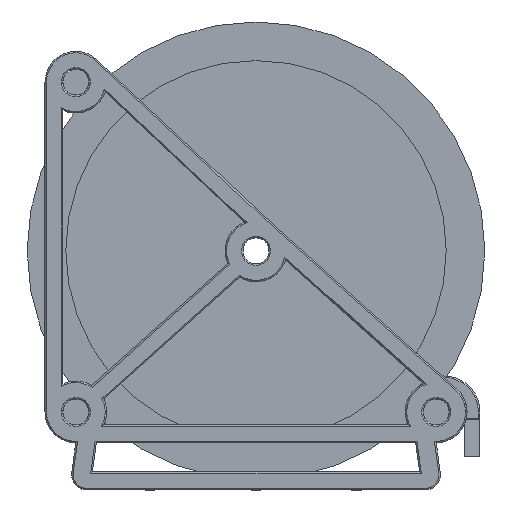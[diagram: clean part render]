
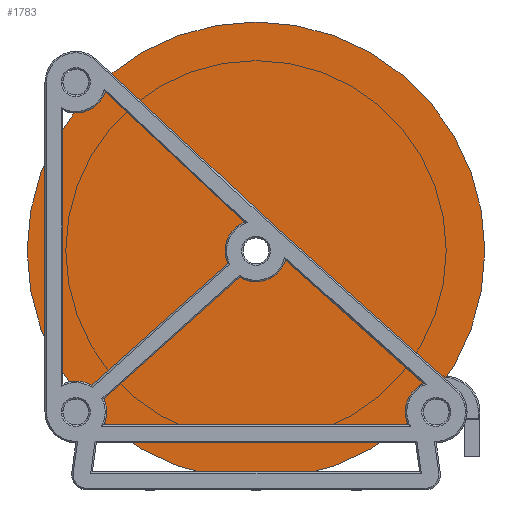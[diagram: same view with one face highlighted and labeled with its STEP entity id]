
A CAD part, front view. The second image highlights one B-rep face of the part: STEP entity #1783.
In plain terms, the highlighted planar face has unit normal (0, -1, 0).
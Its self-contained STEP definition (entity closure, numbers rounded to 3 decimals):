
#439 = DIRECTION ( 'NONE',  ( 0., 1., 0. ) ) ;
#811 = DIRECTION ( 'NONE',  ( 0., 1., 0. ) ) ;
#1350 = DIRECTION ( 'NONE',  ( 0., 1., 0. ) ) ;
#1429 = ORIENTED_EDGE ( 'NONE', *, *, #5997, .T. ) ;
#1783 = ADVANCED_FACE ( 'NONE', ( #7796, #2356 ), #11248, .F. ) ;
#2160 = VERTEX_POINT ( 'NONE', #3501 ) ;
#2238 = DIRECTION ( 'NONE',  ( 0., 0., 1. ) ) ;
#2269 = CIRCLE ( 'NONE', #11410, 88.9 ) ;
#2336 = EDGE_CURVE ( 'NONE', #7032, #4864, #9042, .T. ) ;
#2356 = FACE_BOUND ( 'NONE', #11424, .T. ) ;
#3166 = AXIS2_PLACEMENT_3D ( 'NONE', #6832, #1350, #7743 ) ;
#3364 = DIRECTION ( 'NONE',  ( 0., 1., 0. ) ) ;
#3398 = AXIS2_PLACEMENT_3D ( 'NONE', #11504, #8657, #2238 ) ;
#3501 = CARTESIAN_POINT ( 'NONE',  ( 0., -5.25, -88.9 ) ) ;
#3552 = DIRECTION ( 'NONE',  ( 0., 0., 1. ) ) ;
#3674 = CARTESIAN_POINT ( 'NONE',  ( 0., -5.25, 88.9 ) ) ;
#3928 = CARTESIAN_POINT ( 'NONE',  ( 0., -5.25, 0. ) ) ;
#4629 = EDGE_LOOP ( 'NONE', ( #6213, #7886 ) ) ;
#4669 = CIRCLE ( 'NONE', #10926, 6. ) ;
#4864 = VERTEX_POINT ( 'NONE', #9932 ) ;
#5594 = EDGE_CURVE ( 'NONE', #2160, #8331, #2269, .T. ) ;
#5915 = CARTESIAN_POINT ( 'NONE',  ( 0., -5.25, 0. ) ) ;
#5997 = EDGE_CURVE ( 'NONE', #4864, #7032, #4669, .T. ) ;
#6213 = ORIENTED_EDGE ( 'NONE', *, *, #11075, .F. ) ;
#6305 = DIRECTION ( 'NONE',  ( 0., 0., 1. ) ) ;
#6832 = CARTESIAN_POINT ( 'NONE',  ( 0., -5.25, 0. ) ) ;
#7032 = VERTEX_POINT ( 'NONE', #11104 ) ;
#7550 = DIRECTION ( 'NONE',  ( 0., 0., 1. ) ) ;
#7743 = DIRECTION ( 'NONE',  ( 0., 0., 1. ) ) ;
#7796 = FACE_OUTER_BOUND ( 'NONE', #4629, .T. ) ;
#7886 = ORIENTED_EDGE ( 'NONE', *, *, #5594, .F. ) ;
#8002 = ORIENTED_EDGE ( 'NONE', *, *, #2336, .T. ) ;
#8331 = VERTEX_POINT ( 'NONE', #3674 ) ;
#8657 = DIRECTION ( 'NONE',  ( 0., 1., 0. ) ) ;
#9042 = CIRCLE ( 'NONE', #11724, 6. ) ;
#9092 = CIRCLE ( 'NONE', #3166, 88.9 ) ;
#9932 = CARTESIAN_POINT ( 'NONE',  ( 0., -5.25, 6. ) ) ;
#10919 = CARTESIAN_POINT ( 'NONE',  ( 0., -5.25, 0. ) ) ;
#10926 = AXIS2_PLACEMENT_3D ( 'NONE', #10919, #811, #6305 ) ;
#11075 = EDGE_CURVE ( 'NONE', #8331, #2160, #9092, .T. ) ;
#11104 = CARTESIAN_POINT ( 'NONE',  ( 0., -5.25, -6. ) ) ;
#11248 = PLANE ( 'NONE',  #3398 ) ;
#11410 = AXIS2_PLACEMENT_3D ( 'NONE', #5915, #439, #7550 ) ;
#11424 = EDGE_LOOP ( 'NONE', ( #1429, #8002 ) ) ;
#11504 = CARTESIAN_POINT ( 'NONE',  ( 0., -5.25, -88.9 ) ) ;
#11724 = AXIS2_PLACEMENT_3D ( 'NONE', #3928, #3364, #3552 ) ;
